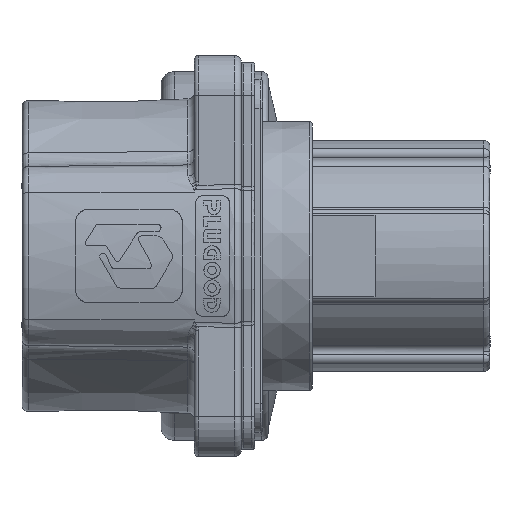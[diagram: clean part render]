
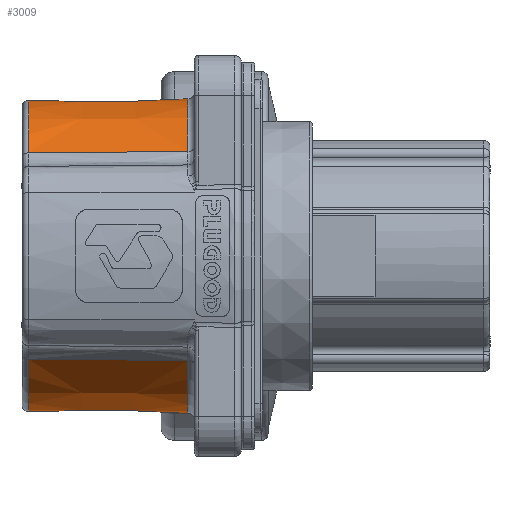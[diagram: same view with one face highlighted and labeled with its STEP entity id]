
A CAD part, front view. The second image highlights one B-rep face of the part: STEP entity #3009.
In plain terms, the highlighted conical face has half-angle 0.5 degrees and reference radius 11.65 mm.
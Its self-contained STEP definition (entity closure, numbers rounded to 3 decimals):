
#3009 = ADVANCED_FACE ( 'NONE', ( #31849 ), #80338, .T. ) ;
#5214 = CARTESIAN_POINT ( 'NONE',  ( -8.5, -17.139, -7.77 ) ) ;
#8021 = CARTESIAN_POINT ( 'NONE',  ( -2.996, -17.164, -7.814 ) ) ;
#8666 = CARTESIAN_POINT ( 'NONE',  ( -14.904, -8.378, 0. ) ) ;
#11451 = DIRECTION ( 'NONE',  ( 0., 0., 1. ) ) ;
#15126 = CARTESIAN_POINT ( 'NONE',  ( -13.07, -17.119, 7.733 ) ) ;
#15818 = DIRECTION ( 'NONE',  ( 1., 0., 0. ) ) ;
#16770 = EDGE_LOOP ( 'NONE', ( #65879, #20444, #48542, #60600 ) ) ;
#19374 = EDGE_CURVE ( 'NONE', #63733, #71721, #55316, .T. ) ;
#20419 = CARTESIAN_POINT ( 'NONE',  ( -14.904, -17.11, 7.718 ) ) ;
#20444 = ORIENTED_EDGE ( 'NONE', *, *, #19374, .T. ) ;
#27274 = CARTESIAN_POINT ( 'NONE',  ( -14.904, -17.11, -7.718 ) ) ;
#27551 = CARTESIAN_POINT ( 'NONE',  ( -7.265, -17.145, 7.78 ) ) ;
#27621 = DIRECTION ( 'NONE',  ( -1., 0., 0. ) ) ;
#31849 = FACE_OUTER_BOUND ( 'NONE', #16770, .T. ) ;
#32226 = CIRCLE ( 'NONE', #50347, 11.654 ) ;
#34211 = CARTESIAN_POINT ( 'NONE',  ( -10.635, -17.129, -7.752 ) ) ;
#35166 = B_SPLINE_CURVE_WITH_KNOTS ( 'NONE', 3,
 ( #55540, #77340, #70230, #5214, #34211, #92002, #56010 ),
 .UNSPECIFIED., .F., .F.,
 ( 4, 3, 4 ),
 ( 0., 0.006, 0.012 ),
 .UNSPECIFIED. ) ;
#42505 = AXIS2_PLACEMENT_3D ( 'NONE', #55025, #47918, #83925 ) ;
#47918 = DIRECTION ( 'NONE',  ( 1., 0., 0. ) ) ;
#48542 = ORIENTED_EDGE ( 'NONE', *, *, #52242, .T. ) ;
#49721 = EDGE_CURVE ( 'NONE', #53063, #63733, #71003, .T. ) ;
#50347 = AXIS2_PLACEMENT_3D ( 'NONE', #8666, #15818, #52357 ) ;
#52242 = EDGE_CURVE ( 'NONE', #71721, #56285, #35166, .T. ) ;
#52357 = DIRECTION ( 'NONE',  ( 0., 0., -1. ) ) ;
#53063 = VERTEX_POINT ( 'NONE', #78656 ) ;
#53801 = AXIS2_PLACEMENT_3D ( 'NONE', #84506, #27621, #11451 ) ;
#55025 = CARTESIAN_POINT ( 'NONE',  ( -15.4, -8.378, 0. ) ) ;
#55316 = CIRCLE ( 'NONE', #53801, 11.758 ) ;
#55540 = CARTESIAN_POINT ( 'NONE',  ( -2.996, -17.164, -7.814 ) ) ;
#56010 = CARTESIAN_POINT ( 'NONE',  ( -14.904, -17.11, -7.718 ) ) ;
#56285 = VERTEX_POINT ( 'NONE', #27274 ) ;
#58322 = CARTESIAN_POINT ( 'NONE',  ( -2.996, -17.164, 7.814 ) ) ;
#60600 = ORIENTED_EDGE ( 'NONE', *, *, #81856, .T. ) ;
#63733 = VERTEX_POINT ( 'NONE', #66364 ) ;
#65879 = ORIENTED_EDGE ( 'NONE', *, *, #49721, .T. ) ;
#66364 = CARTESIAN_POINT ( 'NONE',  ( -2.996, -17.164, 7.814 ) ) ;
#70230 = CARTESIAN_POINT ( 'NONE',  ( -6.665, -17.147, -7.785 ) ) ;
#71003 = B_SPLINE_CURVE_WITH_KNOTS ( 'NONE', 3,
 ( #20419, #15126, #86301, #92478, #27551, #72101, #58322 ),
 .UNSPECIFIED., .F., .F.,
 ( 4, 3, 4 ),
 ( 0., 0.006, 0.012 ),
 .UNSPECIFIED. ) ;
#71721 = VERTEX_POINT ( 'NONE', #8021 ) ;
#72101 = CARTESIAN_POINT ( 'NONE',  ( -5.131, -17.154, 7.797 ) ) ;
#77340 = CARTESIAN_POINT ( 'NONE',  ( -4.83, -17.155, -7.8 ) ) ;
#78656 = CARTESIAN_POINT ( 'NONE',  ( -14.904, -17.11, 7.718 ) ) ;
#80338 = CONICAL_SURFACE ( 'NONE', #42505, 11.65, 0.009 ) ;
#81856 = EDGE_CURVE ( 'NONE', #56285, #53063, #32226, .T. ) ;
#83925 = DIRECTION ( 'NONE',  ( 0., 0., 1. ) ) ;
#84506 = CARTESIAN_POINT ( 'NONE',  ( -2.996, -8.378, 0. ) ) ;
#86301 = CARTESIAN_POINT ( 'NONE',  ( -11.235, -17.127, 7.747 ) ) ;
#92002 = CARTESIAN_POINT ( 'NONE',  ( -12.769, -17.12, -7.735 ) ) ;
#92478 = CARTESIAN_POINT ( 'NONE',  ( -9.4, -17.135, 7.762 ) ) ;
